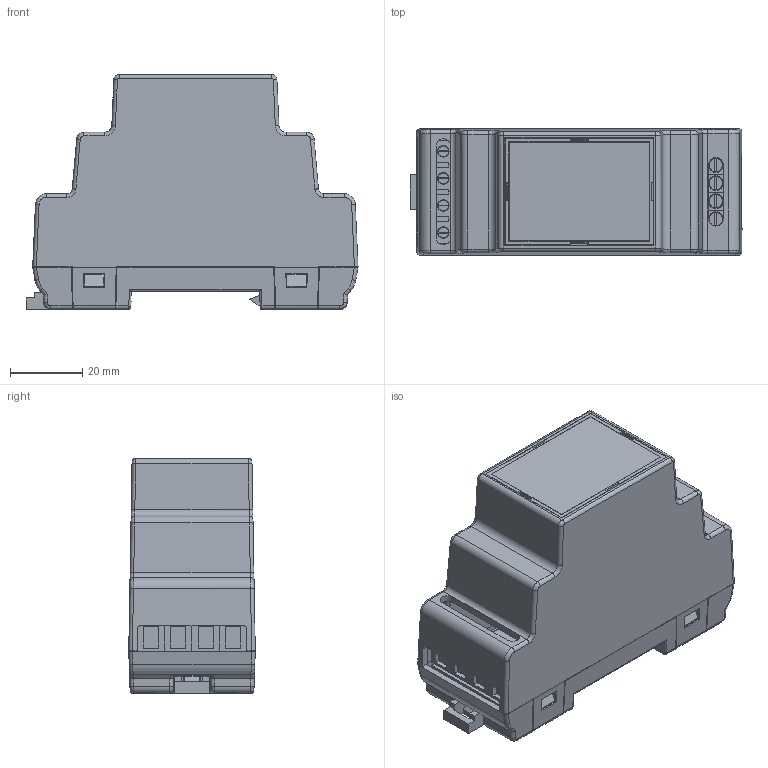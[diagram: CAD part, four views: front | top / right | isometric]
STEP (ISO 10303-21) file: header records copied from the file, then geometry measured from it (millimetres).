
FILE_DESCRIPTION(/* description */ ('','CAx-IF Rec.Pracs.---Representation and Presentation of Product Manufacturing Information (PMI)---3.8---2014-02-18'),/* implementation_level */ '2;1');
FILE_NAME(/* name */ 'C:\Users\user\Desktop\OP-1014(PS-02,PSZ-02).stp',/* time_stamp */ '2024-08-29T13:19:59+02:00',/* author */ ('user'),/* organization */ (''),/* preprocessor_version */ 'ST-DEVELOPER v16.13',/* originating_system */ 'Autodesk Inventor 2018',/* authorisation */ '');
FILE_SCHEMA (('AP242_MANAGED_MODEL_BASED_3D_ENGINEERING_MIM_LF { 1 0 10303 442 1 1 4 }'));
Products named in the file (26): OP-1014; OP-1014_A; OP-1014_B_1; OP-1014_D; OP-1014_naklejka; 2przekaźnik_eagle; ST-1000_2_P_EAGLE; PCB Component; Board; SOD80C@2; ANGLE-SW1-16_1; FIDUCIAL_G10; 0207_5V; E3,5-8; R1206; ULO-TB71-128_5.0_2PIN; 0207_10; GQ-SS_16A; TB10S; GOLDPIN_7-8_2.54MM_2DIN_PK; SOT-23_T_4; LTV-354; ŁĄCZKA 7,5MM; Skręcana łączka_1pin; S_023.05.000.00064 czarny, S_023.05.000.00063 ocynk; OP-267-D
Assembly tree (43 placements, depth 5):
  OP-1014
    OP-1014_A
    OP-1014_B_1
    OP-1014_D
    OP-1014_naklejka
    2przekaźnik_eagle
      ST-1000_2_P_EAGLE
        PCB Component
          Board
          SOD80C@2  x2
          ANGLE-SW1-16_1  x2
          FIDUCIAL_G10  x2
          0207_5V
          E3,5-8  x2
          R1206  x4
          ULO-TB71-128_5.0_2PIN  x2
          0207_10
          GQ-SS_16A  x2
          TB10S
          GOLDPIN_7-8_2.54MM_2DIN_PK
          SOT-23_T_4  x2
          LTV-354  x2
          ŁĄCZKA 7,5MM  x4
          Skręcana łączka_1pin  x4
    S_023.05.000.00064 czarny, S_023.05.000.00063 ocynk  x2
    OP-267-D
Bounding box: 91.85 x 35 x 65 mm (x, y, z)
Volume: 44782.6 mm3; surface area: 55797.6 mm2
Topology: 48 solids, 48 shells, 2127 faces, 5645 edges, 3725 vertices
Faces by surface type: plane 1475, bspline 331, cylinder 253, cone 56, torus 8, sphere 4
Full cylindrical faces by diameter (mm): 0.5 x4, 0.6 x9, 0.813 x8, 1 x8, 1.016 x7, 1.2 x1, 1.3 x4, 1.5 x8, 2.1 x4, 2.9 x2, 2.926 x4, 3.186 x4, 3.2 x2, 3.7 x4, 4 x4
Entity records: 60189 total; most frequent: CARTESIAN_POINT 14844, ORIENTED_EDGE 9250, DIRECTION 8208, EDGE_CURVE 4625, LINE 3420, VECTOR 3420, VERTEX_POINT 3092, AXIS2_PLACEMENT_3D 2470
